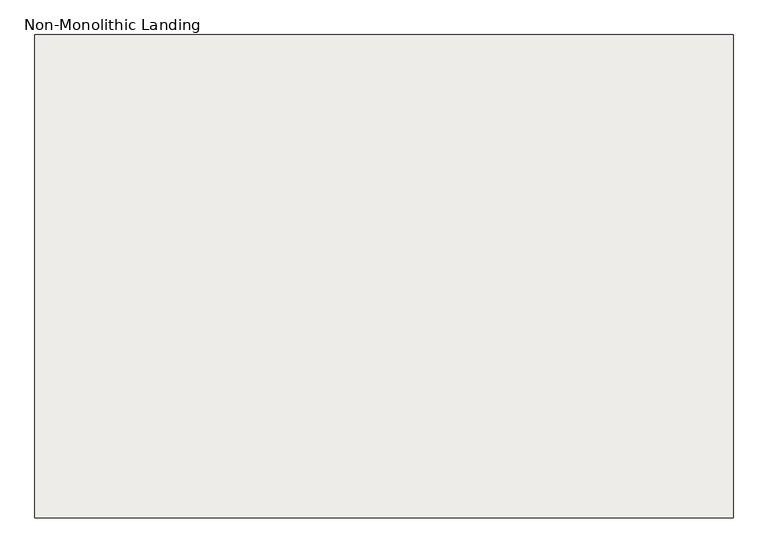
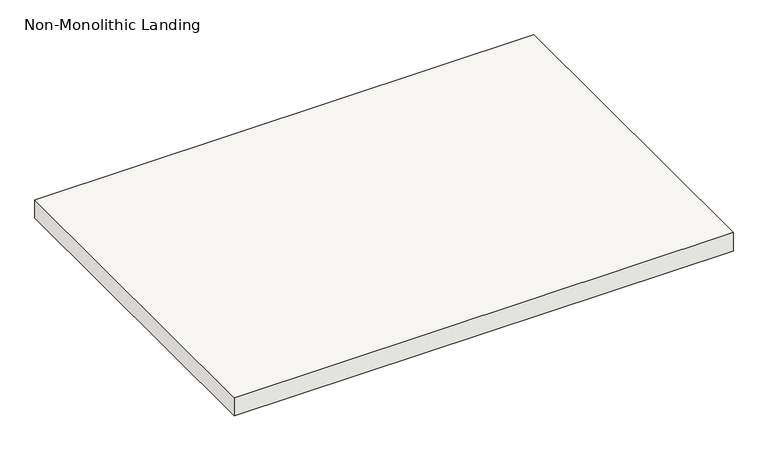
"""IFC4 building model written with IfcOpenShell, lengths in millimetres: slab geometry, Non-Monolithic Landing."""

import ifcopenshell
import ifcopenshell.guid

model = None  # the IFC model being written
_history = None  # IfcOwnerHistory: only IFC2X3 demands one
_inside = {}  # id of a spatial element -> (the spatial element, [elements in it])
_under = {}  # id of a project, library or spatial element -> (it, [spatial elements below it])
_declared = {}  # id of a project -> (the project, [libraries it declares])
_typed = {}  # id of a type object -> (the type object, [elements of that type])
_made_of = {}  # id of a material, layer set ... -> (it, [elements and type objects made of it])


def new_model(schema):
    """Start an empty IFC model of exactly this schema.

    Asked for "IFC4X3", IfcOpenShell would pick the latest addendum, in which some entities
    have other attributes; the version numbers below select the first issue.
    IFC2X3 requires an IfcOwnerHistory on every rooted entity: one is made here for all.
    """
    global model, _history
    if schema == "IFC4X3":
        model = ifcopenshell.file(schema_version=(4, 3, 0, 0))
    else:
        model = ifcopenshell.file(schema=schema)
    _inside.clear()
    _under.clear()
    _declared.clear()
    _typed.clear()
    _made_of.clear()
    _history = None
    if model.schema == "IFC2X3":
        org = make("IfcOrganization", Name="unknown")
        user = make(
            "IfcPersonAndOrganization",
            ThePerson=make("IfcPerson", FamilyName="unknown"),
            TheOrganization=org,
        )
        app = make(
            "IfcApplication",
            ApplicationDeveloper=org,
            Version="unknown",
            ApplicationFullName="unknown",
            ApplicationIdentifier="unknown",
        )
        _history = make(
            "IfcOwnerHistory",
            OwningUser=user,
            OwningApplication=app,
            ChangeAction="ADDED",
            CreationDate=0,
        )
    return model


def make(cls, **values):
    """One entity of the class cls with the attributes given. An attribute that is None is left unset."""
    return model.create_entity(
        cls, **{name: value for name, value in values.items() if value is not None}
    )


def rooted(cls, **values):
    """An entity with a GlobalId (a new one), such as an element, a storey or a relation."""
    return make(cls, GlobalId=ifcopenshell.guid.new(), OwnerHistory=_history, **values)


def si_unit(unit_type, name, prefix=None):
    """IfcSIUnit, for example si_unit("LENGTHUNIT", "METRE", prefix="MILLI")."""
    return make("IfcSIUnit", UnitType=unit_type, Prefix=prefix, Name=name)


def assignment(units):
    """IfcUnitAssignment: the units of a project."""
    return None if units is None else make("IfcUnitAssignment", Units=units)


def point(xyz):
    """IfcCartesianPoint."""
    return None if xyz is None else make("IfcCartesianPoint", Coordinates=xyz)


def direction(xyz):
    """IfcDirection."""
    return None if xyz is None else make("IfcDirection", DirectionRatios=xyz)


def frame(location, z_axis=None, x_axis=None):
    """IfcAxis2Placement3D, a coordinate frame: its origin and axes. An axis left out is left unset."""
    return make(
        "IfcAxis2Placement3D",
        Location=point(location),
        Axis=direction(z_axis),
        RefDirection=direction(x_axis),
    )


def origin():
    """The frame at (0, 0, 0) with its axes left unset."""
    return frame((0.0, 0.0, 0.0))


def place(relative_to, where):
    """IfcLocalPlacement: puts the frame where relative to a parent placement (None: the world)."""
    return make(
        "IfcLocalPlacement", PlacementRelTo=relative_to, RelativePlacement=where
    )


def context(
    kind, dimensions, precision=None, world=None, true_north=None, identifier=None
):
    """IfcGeometricRepresentationContext, for example the 3D "Model" context."""
    return make(
        "IfcGeometricRepresentationContext",
        ContextIdentifier=identifier,
        ContextType=kind,
        CoordinateSpaceDimension=dimensions,
        Precision=precision,
        WorldCoordinateSystem=world,
        TrueNorth=true_north,
    )


def project(units=None, contexts=None):
    """IfcProject with its units and contexts."""
    return rooted(
        "IfcProject",
        Name="project",
        RepresentationContexts=contexts,
        UnitsInContext=assignment(units),
    )


def spatial(cls, under=None, at=None, **own):
    """A site, building, storey or space (cls), placed at a placement, below another one or the project."""
    s = rooted(cls, ObjectPlacement=at, **own)
    if under is not None:
        _under.setdefault(under.id(), (under, []))[1].append(s)
    return s


def polyline(points):
    """IfcPolyline through the points."""
    return make("IfcPolyline", Points=[point(p) for p in points])


def outline(outer, holes=None, kind="AREA"):
    """IfcArbitraryClosedProfileDef: a profile drawn as a closed curve; with holes, ...WithVoids."""
    if holes is None:
        return make("IfcArbitraryClosedProfileDef", ProfileType=kind, OuterCurve=outer)
    return make(
        "IfcArbitraryProfileDefWithVoids",
        ProfileType=kind,
        OuterCurve=outer,
        InnerCurves=holes,
    )


def extrude(swept, where, along, depth):
    """IfcExtrudedAreaSolid: the profile swept, set in the frame where, extruded along a direction by depth."""
    return make(
        "IfcExtrudedAreaSolid",
        SweptArea=swept,
        Position=where,
        ExtrudedDirection=direction(along),
        Depth=depth,
    )


def shape(context_of_items, identifier, shape_type, items):
    """IfcShapeRepresentation: the items that make up one representation, for example the "Body"."""
    return make(
        "IfcShapeRepresentation",
        ContextOfItems=context_of_items,
        RepresentationIdentifier=identifier,
        RepresentationType=shape_type,
        Items=items,
    )


def source(mapping_origin, context_of_items, identifier, shape_type, items):
    """IfcRepresentationMap: a shape defined once, which mapped items show again and again."""
    return make(
        "IfcRepresentationMap",
        MappingOrigin=mapping_origin,
        MappedRepresentation=shape(context_of_items, identifier, shape_type, items),
    )


def transform(
    local_origin,
    x_axis=None,
    y_axis=None,
    z_axis=None,
    scale=None,
    scale2=None,
    scale3=None,
    uniform=True,
):
    """IfcCartesianTransformationOperator3D, or its non-uniform kind. x_axis, y_axis, z_axis: its Axis1, 2, 3."""
    if uniform:
        return make(
            "IfcCartesianTransformationOperator3D",
            Axis1=direction(x_axis),
            Axis2=direction(y_axis),
            LocalOrigin=point(local_origin),
            Scale=scale,
            Axis3=direction(z_axis),
        )
    return make(
        "IfcCartesianTransformationOperator3DnonUniform",
        Axis1=direction(x_axis),
        Axis2=direction(y_axis),
        LocalOrigin=point(local_origin),
        Scale=scale,
        Axis3=direction(z_axis),
        Scale2=scale2,
        Scale3=scale3,
    )


def mapped(mapping_source, mapping_target):
    """IfcMappedItem: shows the shape of a source again, moved by a transform."""
    return make(
        "IfcMappedItem", MappingSource=mapping_source, MappingTarget=mapping_target
    )


def made_of(thing, what):
    """Note that an element or type object is made of a material, layer set ...; save() writes the relation."""
    if what is not None:
        _made_of.setdefault(what.id(), (what, []))[1].append(thing)
    return thing


def element(
    cls,
    number,
    at=None,
    inside=None,
    cuts=None,
    type_object=None,
    material=None,
    context=None,
    identifier="Body",
    shape_type=None,
    held_by="IfcProductDefinitionShape",
    body=None,
    shapes=None,
    **own,
):
    """One element of the class cls, such as IfcWall. Its Tag is "e" and its number.

    at: its placement. inside: the storey or other place that contains it. cuts: it is an
    opening in that element (IfcRelVoidsElement). A single representation is given by context,
    identifier, shape_type and body (its items); several are given by shapes. held_by: the class
    of the entity that holds the representations. save() writes the other relations.
    """
    e = rooted(cls, Tag="e%d" % number, ObjectPlacement=at, **own)
    if body is not None:
        shapes = [shape(context, identifier, shape_type, body)]
    if shapes is not None:
        e.Representation = make(held_by, Representations=shapes)
    if inside is not None:
        _inside.setdefault(inside.id(), (inside, []))[1].append(e)
    if cuts is not None:
        rooted(
            "IfcRelVoidsElement", RelatingBuildingElement=cuts, RelatedOpeningElement=e
        )
    if type_object is not None:
        _typed.setdefault(type_object.id(), (type_object, []))[1].append(e)
    return made_of(e, material)


def aggregate(whole, parts):
    """IfcRelAggregates: a whole, such as a stair, and the parts it consists of."""
    return rooted("IfcRelAggregates", RelatingObject=whole, RelatedObjects=parts)


def save(model, path):
    """Write the relations noted so far, then the file.

    IfcRelAggregates (storeys below a building ...), IfcRelContainedInSpatialStructure (elements
    in a storey), IfcRelDefinesByType, IfcRelAssociatesMaterial and IfcRelDeclares: one each for
    every whole, place, type object, material and project.
    """
    for whole, parts in _under.values():
        aggregate(whole, parts)
    for where, things in _inside.values():
        rooted(
            "IfcRelContainedInSpatialStructure",
            RelatedElements=things,
            RelatingStructure=where,
        )
    for kind, things in _typed.values():
        rooted("IfcRelDefinesByType", RelatedObjects=things, RelatingType=kind)
    for what, things in _made_of.values():
        rooted("IfcRelAssociatesMaterial", RelatedObjects=things, RelatingMaterial=what)
    for by, libraries in _declared.values():
        rooted("IfcRelDeclares", RelatingContext=by, RelatedDefinitions=libraries)
    model.write(path)


def non_monolithic_landing_1514b0e3(model_context):
    return source(origin(), model_context, "Body", "SweptSolid", [
        extrude(outline(polyline([(49950.7241768, 29614.9361774), (51271.5241768, 29614.9361774), (51271.5241768, 28700.5361774), (49950.7241768, 28700.5361774), (49950.7241768, 29614.9361774)])), frame((0.0, 0.0, 2126.3428571), z_axis=(0.0, 0.0, 1.0), x_axis=(1.0, 0.0, 0.0)), (0.0, 0.0, 1.0), 50.8),
    ])


if __name__ == "__main__":
    model = new_model("IFC4")
    model_context = context("Model", 3, world=origin())
    ifc_project = project(units=[si_unit("LENGTHUNIT", "METRE", prefix="MILLI")], contexts=[model_context])
    site = spatial("IfcSite", under=ifc_project)
    building = spatial("IfcBuilding", under=site)
    placement = place(None, origin())
    non_monolithic_landing_shape = non_monolithic_landing_1514b0e3(model_context)
    element("IfcSlab", 1, ObjectType="Non-Monolithic Landing", at=placement, inside=building, context=model_context, shape_type="MappedRepresentation", body=[
        mapped(non_monolithic_landing_shape, transform((0.0, 0.0, 0.0), x_axis=(1.0, 0.0, 0.0), y_axis=(0.0, 1.0, 0.0), z_axis=(0.0, 0.0, 1.0))),
    ])
    save(model, "model.ifc")
